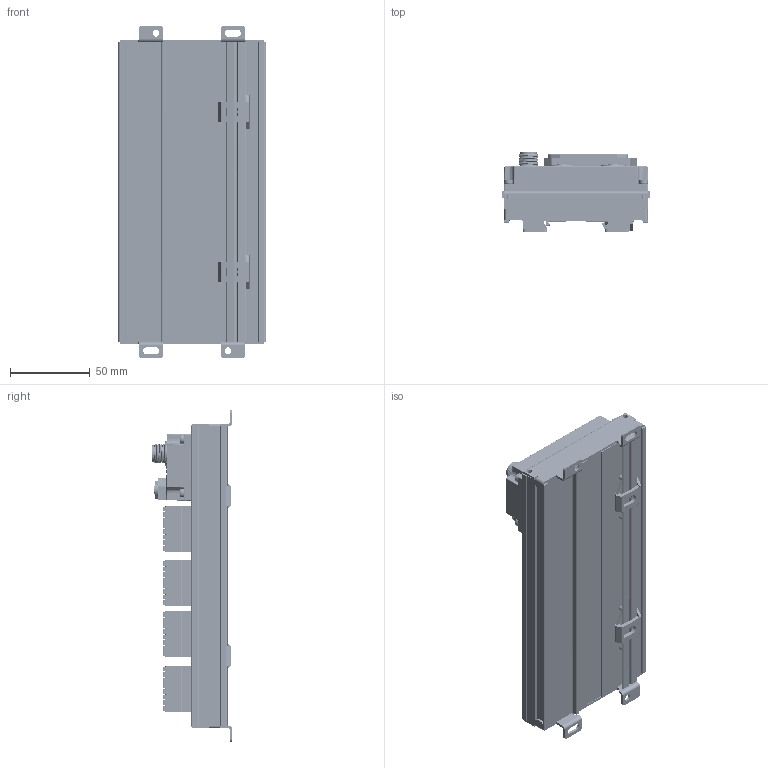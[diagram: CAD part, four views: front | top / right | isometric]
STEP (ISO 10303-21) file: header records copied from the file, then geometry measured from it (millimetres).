
FILE_DESCRIPTION (( 'STEP AP203' ), '1' );
FILE_NAME ('009M71.STEP', '2024-05-29T07:54:04', ( 'L' ), ( '' ), 'SwSTEP 2.0', 'SolidWorks 2019', '' );
FILE_SCHEMA (( 'CONFIG_CONTROL_DESIGN' ));
Products named in the file (1): 009M71
Bounding box: 92 x 50.1 x 207.5 mm (x, y, z)
Volume: 452370.8 mm3; surface area: 136407.5 mm2
Topology: 1 solids, 81 shells, 16669 faces, 44850 edges, 29262 vertices
Faces by surface type: plane 10262, cylinder 3619, bspline 1685, cone 957, sphere 87, torus 59
Entity records: 631586 total; most frequent: CARTESIAN_POINT 238302, ORIENTED_EDGE 89664, DIRECTION 68516, EDGE_CURVE 44832, VECTOR 29860, LINE 29860, VERTEX_POINT 29262, AXIS2_PLACEMENT_3D 19328
